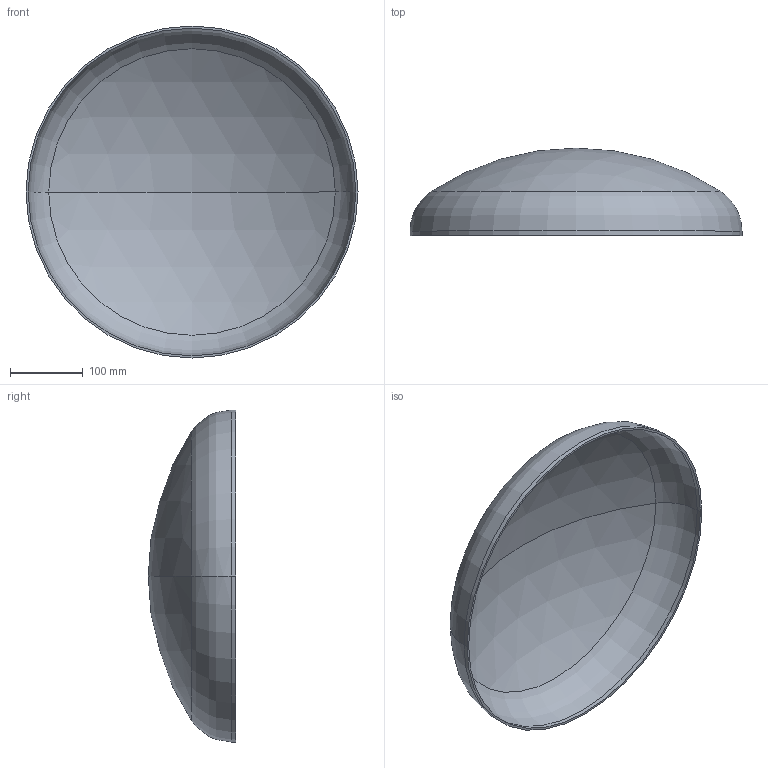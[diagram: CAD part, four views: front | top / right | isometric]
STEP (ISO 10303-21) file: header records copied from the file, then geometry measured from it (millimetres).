
FILE_DESCRIPTION (( 'STEP AP203' ), '1' );
FILE_NAME ('3D_R365_456x3_173371484.STEP', '2024-07-16T06:51:58', ( '' ), ( '' ), 'SwSTEP 2.0', 'SolidWorks 2024', '' );
FILE_SCHEMA (( 'CONFIG_CONTROL_DESIGN' ));
Length unit declared in the file: millimetre
Products named in the file (1): 3D_R365_456x3_173371484
Bounding box: 456 x 120 x 456 mm (x, y, z)
Volume: 685047.4 mm3; surface area: 460986.3 mm2
Topology: 1 solids, 1 shells, 13 faces, 24 edges, 14 vertices
Faces by surface type: sphere 4, torus 4, cylinder 4, plane 1
Entity records: 407 total; most frequent: DIRECTION 72, CARTESIAN_POINT 52, ORIENTED_EDGE 48, AXIS2_PLACEMENT_3D 34, EDGE_CURVE 24, CIRCLE 20, VERTEX_POINT 14, EDGE_LOOP 14
